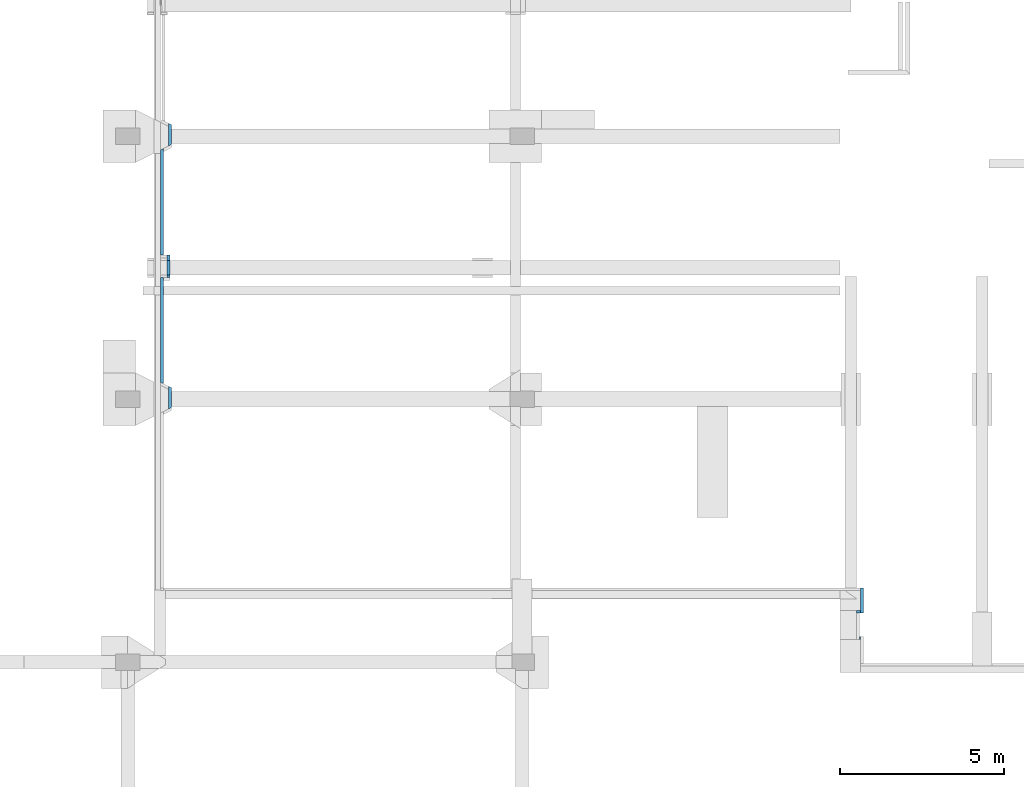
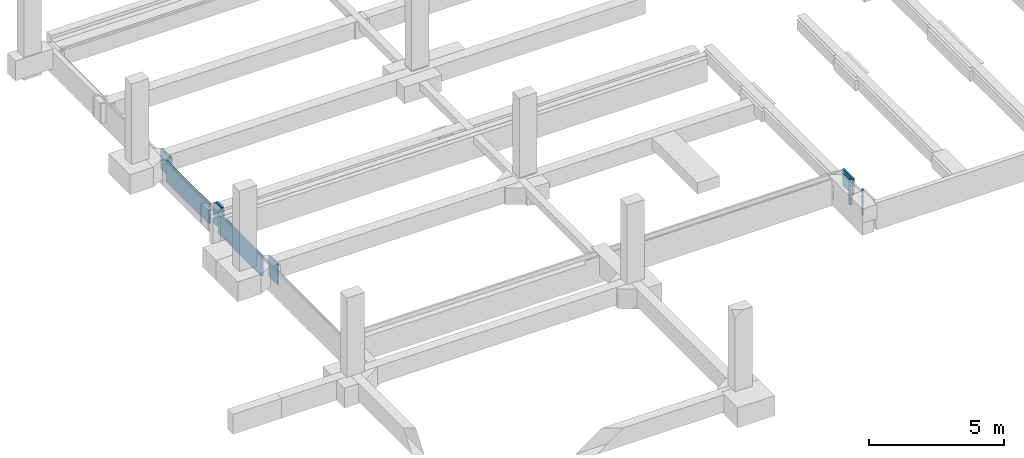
# One storey, part 10 of 17: 8 walls.
"""IFC2X3 building model written with IfcOpenShell, lengths in millimetres."""

from ifc_helpers import new_model, entity, si_unit, converted_unit, derived_unit, money_unit, direction, frame, origin_with_axes, place, context, subcontext, project, spatial, faceted_brep, material, type_object, element, save


model = new_model("IFC2X3")

# Units and contexts
model_context = context("Model", 3, precision=0.01, world=origin_with_axes(), true_north=direction((0.0, 1.0)))
body_context = subcontext(model_context, "Body", "Model", "MODEL_VIEW")
ifc_project = project(units=[si_unit("LENGTHUNIT", "METRE", prefix="MILLI"), si_unit("AREAUNIT", "SQUARE_METRE"), si_unit("VOLUMEUNIT", "CUBIC_METRE"), converted_unit("PLANEANGLEUNIT", "DEGREE", entity("IfcPlaneAngleMeasure", 0.0174532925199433), si_unit("PLANEANGLEUNIT", "RADIAN"), dimensions=[0, 0, 0, 0, 0, 0, 0]), money_unit("EUR"), converted_unit("TIMEUNIT", "Year", entity("IfcTimeMeasure", 31557600.0), si_unit("TIMEUNIT", "SECOND"), dimensions=[0, 0, 1, 0, 0, 0, 0]), si_unit("MASSUNIT", "GRAM", prefix="KILO"), si_unit("THERMODYNAMICTEMPERATUREUNIT", "DEGREE_CELSIUS"), si_unit("LUMINOUSINTENSITYUNIT", "LUMEN"), si_unit("ENERGYUNIT", "JOULE", prefix="MEGA"), derived_unit("THERMALCONDUCTANCEUNIT", [(si_unit("POWERUNIT", "WATT"), 1), (si_unit("LENGTHUNIT", "METRE"), -1), (si_unit("THERMODYNAMICTEMPERATUREUNIT", "KELVIN"), -1)]), derived_unit("SPECIFICHEATCAPACITYUNIT", [(si_unit("ENERGYUNIT", "JOULE"), 1), (si_unit("MASSUNIT", "GRAM", prefix="KILO"), -1), (si_unit("THERMODYNAMICTEMPERATUREUNIT", "KELVIN"), -1)]), derived_unit("MASSDENSITYUNIT", [(si_unit("MASSUNIT", "GRAM", prefix="KILO"), 1), (si_unit("VOLUMEUNIT", "CUBIC_METRE"), -1)])], contexts=[model_context])

# Site, building, storey
site_placement = place(None, origin_with_axes())
site = spatial("IfcSite", under=ifc_project, at=site_placement, Name="<site naam>", CompositionType="ELEMENT")
building_placement = place(site_placement, origin_with_axes())
building = spatial("IfcBuilding", under=site, at=building_placement, Name="<Naam gebouw>", CompositionType="ELEMENT")
storey_placement = place(building_placement, frame((0.0, 0.0, -1100.0), z_axis=(0.0, 0.0, 1.0), x_axis=(1.0, 0.0, 0.0)))
storey = spatial("IfcBuildingStorey", under=building, at=storey_placement, Name="-1 Fundering", CompositionType="ELEMENT", Elevation=-1100.0)

# Walls
ifc_material = material(Name="ALG - ISOLATIE")
wall_type = type_object("IfcWallType", Name="ALG - ISOLATIE 85", PredefinedType="NOTDEFINED")
wall_1_placement = place(storey_placement, frame((12300.44613421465, 2175.000000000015, 349.9999928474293), z_axis=(0.0, 0.0, 1.0), x_axis=(0.0, -1.0, 0.0)))
element("IfcWall", 1, at=wall_1_placement, inside=storey, type_object=wall_type, material=ifc_material, Name="21_Binnenwand_ALG", context=body_context, shape_type="Brep", body=[
    faceted_brep([(-85.00000000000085, 0.0, 0.0), (-85.00000000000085, 0.0, 470.0000071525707), (-85.00000000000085, 85.00000000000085, 470.0000071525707), (-85.00000000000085, 85.00000000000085, 0.0), (685.0000000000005, 0.0, 0.0), (685.0000000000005, 0.0, 470.0000071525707), (684.9999999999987, 84.99999999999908, 470.0000071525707), (684.9999999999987, 84.99999999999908, 0.0)], [[[0, 1, 2, 3]], [[4, 5, 1, 0]], [[5, 6, 2, 1]], [[3, 2, 6, 7]], [[3, 7, 4, 0]], [[7, 6, 5, 4]]]),
    faceted_brep([(684.9999999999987, 84.99999999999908, 750.0000071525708), (684.9999999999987, 84.99999999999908, 550.0000071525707), (-85.00000000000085, 85.00000000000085, 550.0000071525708), (-85.00000000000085, 85.00000000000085, 750.0000071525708), (685.0000000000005, 0.0, 750.0000071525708), (685.0000000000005, 0.0, 550.0000071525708), (-85.00000000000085, 0.0, 550.0000071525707), (-85.00000000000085, 0.0, 750.0000071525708)], [[[0, 1, 2, 3]], [[4, 5, 1, 0]], [[5, 6, 2, 1]], [[3, 2, 6, 7]], [[7, 4, 0, 3]], [[7, 6, 5, 4]]]),
])
wall_2_placement = place(storey_placement, frame((-8759.082491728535, 7700.000000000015, -100.0000000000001), z_axis=(0.0, 0.0, 1.0), x_axis=(0.0, 1.0, 0.0)))
element("IfcWall", 2, at=wall_2_placement, inside=storey, type_object=wall_type, material=ifc_material, Name="21_Binnenwand_ALG", context=body_context, shape_type="Brep", body=[
    faceted_brep([(652.5329045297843, -85.00000000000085, 0.0), (695.0328765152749, 0.0, 0.0), (695.0328765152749, 0.0, 920.0000000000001), (652.532904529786, -85.00000000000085, 920.0000000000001), (42.50003615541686, -85.00000000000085, 0.0), (0.0, 0.0, 0.0), (0.0, 0.0, 920.0000000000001), (42.50003615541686, -85.00000000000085, 920.0000000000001)], [[[0, 1, 2, 3]], [[4, 5, 1, 0]], [[1, 5, 6, 2]], [[2, 6, 7, 3]], [[4, 0, 3, 7]], [[5, 4, 7, 6]]]),
])
wall_3_placement = place(storey_placement, frame((-8999.999999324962, 8420.458674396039, -100.0000000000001), z_axis=(0.0, 0.0, 1.0), x_axis=(0.0, 1.0, 0.0)))
element("IfcWall", 3, at=wall_3_placement, inside=storey, type_object=wall_type, material=ifc_material, Name="21_Binnenwand_ALG", context=body_context, shape_type="Brep", body=[
    faceted_brep([(3279.541370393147, -85.00000000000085, 0.0), (3279.541404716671, 0.0, 0.0), (3279.541404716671, 0.0, 920.0000000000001), (3279.541370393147, -85.00000000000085, 920.0000000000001), (52.53290452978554, -84.99999999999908, 0.0), (95.03287651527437, 0.0, 0.0), (95.03287651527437, 0.0, 920.0000000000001), (52.53290452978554, -84.99999999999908, 920.0000000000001)], [[[0, 1, 2, 3]], [[4, 5, 1, 0]], [[1, 5, 6, 2]], [[2, 6, 7, 3]], [[4, 0, 3, 7]], [[5, 4, 7, 6]]]),
])
wall_4_placement = place(storey_placement, frame((-8999.999999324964, 12299.99984741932, -100.0000000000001), z_axis=(0.0, 0.0, 1.0), x_axis=(0.0, 1.0, 0.0)))
element("IfcWall", 4, at=wall_4_placement, inside=storey, type_object=wall_type, material=ifc_material, Name="21_Binnenwand_ALG", context=body_context, shape_type="Brep", body=[
    faceted_brep([(3322.04139878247, -85.00000000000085, 0.0), (3279.541398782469, 0.0, 0.0), (3279.541398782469, 0.0, 920.0000000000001), (3322.04139878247, -85.00000000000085, 920.0000000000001), (85.00006619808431, -85.00000000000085, 0.0), (85.00000000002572, 0.0, 0.0), (85.00000000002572, 0.0, 920.0000000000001), (85.00006619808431, -85.00000000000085, 920.0000000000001)], [[[0, 1, 2, 3]], [[4, 5, 1, 0]], [[1, 5, 6, 2]], [[2, 6, 7, 3]], [[4, 0, 3, 7]], [[5, 4, 7, 6]]]),
])
wall_5_placement = place(storey_placement, frame((-8759.082491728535, 15700.00000000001, -100.0000000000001), z_axis=(0.0, 0.0, 1.0), x_axis=(0.0, 1.0, 0.0)))
element("IfcWall", 5, at=wall_5_placement, inside=storey, type_object=wall_type, material=ifc_material, Name="21_Binnenwand_ALG", context=body_context, shape_type="Brep", body=[
    faceted_brep([(652.5328890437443, -85.00000000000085, 0.0), (695.0328890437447, 0.0, 0.0), (695.0328890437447, 0.0, 920.0000000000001), (652.5328890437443, -85.00000000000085, 920.0000000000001), (42.49999999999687, -85.00000000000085, 0.0), (0.0, 0.0, 0.0), (0.0, 0.0, 920.0000000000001), (42.49999999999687, -85.00000000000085, 920.0000000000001)], [[[0, 1, 2, 3]], [[4, 5, 1, 0]], [[1, 5, 6, 2]], [[2, 6, 7, 3]], [[4, 0, 3, 7]], [[5, 4, 7, 6]]]),
])
wall_6_placement = place(storey_placement, frame((-8804.082491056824, 11700.00000000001, -100.0000000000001), z_axis=(0.0, 0.0, 1.0), x_axis=(0.0, 1.0, 0.0)))
element("IfcWall", 6, at=wall_6_placement, inside=storey, type_object=wall_type, material=ifc_material, Name="21_Binnenwand_ALG", context=body_context, shape_type="Brep", body=[
    faceted_brep([(685.0000661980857, -85.00000000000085, 0.0), (685.0000000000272, 0.0, 0.0), (685.0000000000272, 0.0, 920.0000000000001), (685.0000661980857, -85.00000000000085, 920.0000000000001), (-3.432352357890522e-05, -85.00000000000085, 0.0), (0.0, 0.0, 0.0), (0.0, 0.0, 920.0000000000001), (-3.432352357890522e-05, -85.00000000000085, 920.0000000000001)], [[[0, 1, 2, 3]], [[4, 5, 1, 0]], [[1, 5, 6, 2]], [[2, 6, 7, 3]], [[4, 0, 3, 7]], [[5, 4, 7, 6]]]),
    faceted_brep([(525.0000000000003, -85.00000000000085, 1050.0), (525.0000000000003, 0.0, 1050.0), (74.99999999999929, 0.0, 1050.0), (74.99999999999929, -85.00000000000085, 1050.0), (525.0000000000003, -85.00000000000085, 1000.0), (525.0000000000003, 0.0, 1000.0), (74.99999999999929, 0.0, 1000.0), (74.99999999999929, -85.00000000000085, 1000.0)], [[[0, 1, 2, 3]], [[1, 0, 4, 5]], [[1, 5, 6, 2]], [[7, 3, 2, 6]], [[4, 0, 3, 7]], [[5, 4, 7, 6]]]),
])
wall_7_placement = place(storey_placement, frame((12300.44613421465, 1575.000000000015, -50.00000000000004), z_axis=(0.0, 0.0, 1.0), x_axis=(-1.0, 0.0, 0.0)))
element("IfcWall", 7, at=wall_7_placement, inside=storey, type_object=wall_type, material=ifc_material, Name="21_Binnenwand_ALG", context=body_context, shape_type="Brep", body=[
    faceted_brep([(124.999993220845, 0.0, 0.0), (124.999993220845, 0.0, 870.0000000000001), (0.0, 0.0, 870.0000000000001), (0.0, 0.0, 399.9999928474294), (0.0, 0.0, 0.0), (124.9999936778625, 85.00000000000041, 0.0), (124.9999936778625, 85.00000000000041, 870.0000000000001), (0.0, 85.00000000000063, 870.0000000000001), (0.0, 85.00000000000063, 399.9999928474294), (0.0, 85.00000000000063, 0.0)], [[[0, 1, 2, 3, 4]], [[5, 6, 1, 0]], [[6, 7, 2, 1]], [[3, 2, 7, 8, 9, 4]], [[9, 5, 0, 4]], [[8, 7, 6, 5, 9]]]),
    faceted_brep([(0.0, 85.00000000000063, 1150.0), (0.0, 85.00000000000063, 950.0000000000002), (0.0, 0.0, 950.0000000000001), (0.0, 0.0, 1150.0), (124.9999936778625, 85.00000000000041, 1150.0), (124.9999936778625, 85.00000000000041, 950.0000000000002), (124.999993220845, 0.0, 950.0000000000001), (124.999993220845, 0.0, 1150.0)], [[[0, 1, 2, 3]], [[4, 5, 1, 0]], [[5, 6, 2, 1]], [[3, 2, 6, 7]], [[7, 4, 0, 3]], [[7, 6, 5, 4]]]),
])
wall_8_placement = place(storey_placement, frame((12175.4461362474, 692.2234741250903, -50.00000000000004), z_axis=(0.0, 0.0, 1.0), x_axis=(1.0, 0.0, 0.0)))
element("IfcWall", 8, at=wall_8_placement, inside=storey, type_object=wall_type, material=ifc_material, Name="21_Binnenwand_ALG", context=body_context, shape_type="Brep", body=[
    faceted_brep([(124.9574020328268, 85.00000000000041, 0.0), (124.9574020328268, 85.00000000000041, 870.0000000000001), (124.989664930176, 0.0, 870.0000000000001), (124.989664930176, 0.0, 0.0), (85.00000045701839, 85.0000000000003, 0.0), (85.00000045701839, 85.0000000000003, 870.0000000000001), (85.00000000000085, 0.0, 870.0000000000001), (85.00000000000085, 0.0, 0.0)], [[[0, 1, 2, 3]], [[4, 5, 1, 0]], [[5, 6, 2, 1]], [[3, 2, 6, 7]], [[4, 0, 3, 7]], [[7, 6, 5, 4]]]),
    faceted_brep([(85.00000000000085, 0.0, 1150.0), (85.00000000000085, 0.0, 950.0000000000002), (124.989664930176, 0.0, 950.0000000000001), (124.989664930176, 0.0, 1150.0), (85.00000045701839, 85.0000000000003, 1150.0), (85.00000045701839, 85.0000000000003, 950.0000000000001), (124.9574020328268, 85.00000000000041, 950.0000000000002), (124.9574020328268, 85.00000000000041, 1150.0)], [[[0, 1, 2, 3]], [[4, 5, 1, 0]], [[5, 6, 2, 1]], [[3, 2, 6, 7]], [[0, 3, 7, 4]], [[7, 6, 5, 4]]]),
])

save(model, "model.ifc")
